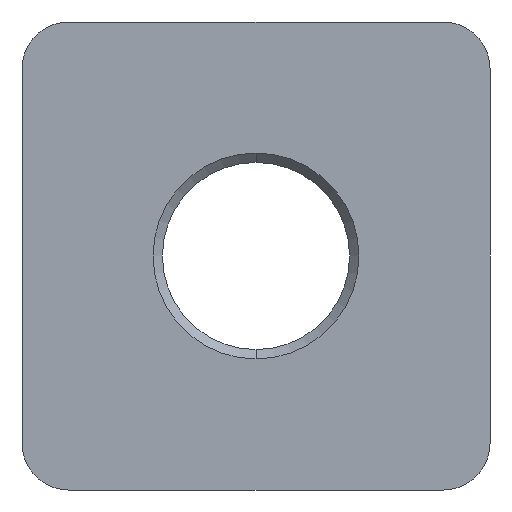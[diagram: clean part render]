
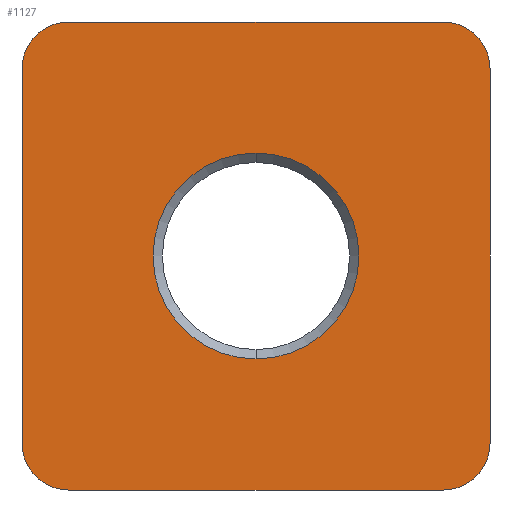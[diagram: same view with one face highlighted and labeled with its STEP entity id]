
A CAD part, front view. The second image highlights one B-rep face of the part: STEP entity #1127.
In plain terms, the highlighted planar face has unit normal (0, -1, 0).
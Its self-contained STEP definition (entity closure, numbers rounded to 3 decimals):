
#27 = VECTOR ( 'NONE', #28, 1000. ) ;
#28 = DIRECTION ( 'NONE',  ( 1., 0., 0. ) ) ;
#124 = EDGE_CURVE ( 'NONE', #125, #1137, #303, .T. ) ;
#125 = VERTEX_POINT ( 'NONE', #298 ) ;
#298 = CARTESIAN_POINT ( 'NONE',  ( 0., 0., -11. ) ) ;
#299 = DIRECTION ( 'NONE',  ( 0., 0., 1. ) ) ;
#300 = DIRECTION ( 'NONE',  ( 0., 1., 0. ) ) ;
#301 = CARTESIAN_POINT ( 'NONE',  ( 0., 0., 0. ) ) ;
#302 = AXIS2_PLACEMENT_3D ( 'NONE', #301, #300, #299 ) ;
#303 = CIRCLE ( 'NONE', #302, 11. ) ;
#397 = CARTESIAN_POINT ( 'NONE',  ( -20., 0., 25. ) ) ;
#497 = DIRECTION ( 'NONE',  ( 0., 0., 1. ) ) ;
#498 = DIRECTION ( 'NONE',  ( 0., 1., 0. ) ) ;
#499 = CARTESIAN_POINT ( 'NONE',  ( 0., 0., 0. ) ) ;
#500 = AXIS2_PLACEMENT_3D ( 'NONE', #499, #498, #497 ) ;
#501 = CIRCLE ( 'NONE', #500, 11. ) ;
#517 = CARTESIAN_POINT ( 'NONE',  ( -20., 0., 25. ) ) ;
#524 = DIRECTION ( 'NONE',  ( 0., 0., -1. ) ) ;
#525 = DIRECTION ( 'NONE',  ( 0., 1., 0. ) ) ;
#526 = CARTESIAN_POINT ( 'NONE',  ( -20., 0., 20. ) ) ;
#527 = AXIS2_PLACEMENT_3D ( 'NONE', #526, #525, #524 ) ;
#528 = CIRCLE ( 'NONE', #527, 5. ) ;
#539 = DIRECTION ( 'NONE',  ( 0., 0., -1. ) ) ;
#540 = VECTOR ( 'NONE', #539, 1000. ) ;
#541 = CARTESIAN_POINT ( 'NONE',  ( 25., 0., 20. ) ) ;
#545 = LINE ( 'NONE', #541, #540 ) ;
#588 = DIRECTION ( 'NONE',  ( 0., 0., 1. ) ) ;
#589 = VECTOR ( 'NONE', #588, 1000. ) ;
#590 = CARTESIAN_POINT ( 'NONE',  ( -25., 0., 20. ) ) ;
#591 = LINE ( 'NONE', #590, #589 ) ;
#596 = CARTESIAN_POINT ( 'NONE',  ( -25., 0., 20. ) ) ;
#608 = DIRECTION ( 'NONE',  ( 0., 0., 1. ) ) ;
#609 = DIRECTION ( 'NONE',  ( 0., 1., 0. ) ) ;
#610 = CARTESIAN_POINT ( 'NONE',  ( -20., 0., -20. ) ) ;
#611 = AXIS2_PLACEMENT_3D ( 'NONE', #610, #609, #608 ) ;
#612 = CIRCLE ( 'NONE', #611, 5. ) ;
#621 = CARTESIAN_POINT ( 'NONE',  ( -20., 0., -25. ) ) ;
#632 = CARTESIAN_POINT ( 'NONE',  ( -25., 0., -20. ) ) ;
#643 = LINE ( 'NONE', #397, #27 ) ;
#649 = CARTESIAN_POINT ( 'NONE',  ( 20., 0., 25. ) ) ;
#660 = DIRECTION ( 'NONE',  ( 0., 0., -1. ) ) ;
#661 = DIRECTION ( 'NONE',  ( 0., 1., 0. ) ) ;
#662 = CARTESIAN_POINT ( 'NONE',  ( 20., 0., -20. ) ) ;
#663 = AXIS2_PLACEMENT_3D ( 'NONE', #662, #661, #660 ) ;
#664 = CIRCLE ( 'NONE', #663, 5. ) ;
#670 = CARTESIAN_POINT ( 'NONE',  ( 20., 0., -25. ) ) ;
#693 = CARTESIAN_POINT ( 'NONE',  ( 25., 0., 20. ) ) ;
#737 = FACE_OUTER_BOUND ( 'NONE', #980, .T. ) ;
#738 = FACE_BOUND ( 'NONE', #976, .T. ) ;
#739 = AXIS2_PLACEMENT_3D ( 'NONE', #800, #799, #798 ) ;
#740 = PLANE ( 'NONE',  #739 ) ;
#741 = DIRECTION ( 'NONE',  ( -1., 0., 0. ) ) ;
#742 = VECTOR ( 'NONE', #741, 1000. ) ;
#743 = CARTESIAN_POINT ( 'NONE',  ( -20., 0., -25. ) ) ;
#744 = LINE ( 'NONE', #743, #742 ) ;
#749 = CARTESIAN_POINT ( 'NONE',  ( 25., 0., -20. ) ) ;
#761 = DIRECTION ( 'NONE',  ( 0., 0., 1. ) ) ;
#762 = DIRECTION ( 'NONE',  ( 0., 1., 0. ) ) ;
#763 = CARTESIAN_POINT ( 'NONE',  ( 20., 0., 20. ) ) ;
#764 = AXIS2_PLACEMENT_3D ( 'NONE', #763, #762, #761 ) ;
#765 = CIRCLE ( 'NONE', #764, 5. ) ;
#782 = CARTESIAN_POINT ( 'NONE',  ( 0., 0., 11. ) ) ;
#798 = DIRECTION ( 'NONE',  ( 0., 0., 1. ) ) ;
#799 = DIRECTION ( 'NONE',  ( 0., 1., 0. ) ) ;
#800 = CARTESIAN_POINT ( 'NONE',  ( -20., 0., -20. ) ) ;
#966 = VERTEX_POINT ( 'NONE', #517 ) ;
#976 = EDGE_LOOP ( 'NONE', ( #977, #978 ) ) ;
#977 = ORIENTED_EDGE ( 'NONE', *, *, #124, .T. ) ;
#978 = ORIENTED_EDGE ( 'NONE', *, *, #979, .T. ) ;
#979 = EDGE_CURVE ( 'NONE', #1137, #125, #501, .T. ) ;
#980 = EDGE_LOOP ( 'NONE', ( #981, #982, #983, #984, #985, #1009, #1010, #1011 ) ) ;
#981 = ORIENTED_EDGE ( 'NONE', *, *, #1027, .F. ) ;
#982 = ORIENTED_EDGE ( 'NONE', *, *, #1126, .F. ) ;
#983 = ORIENTED_EDGE ( 'NONE', *, *, #1069, .F. ) ;
#984 = ORIENTED_EDGE ( 'NONE', *, *, #999, .F. ) ;
#985 = ORIENTED_EDGE ( 'NONE', *, *, #1116, .F. ) ;
#999 = EDGE_CURVE ( 'NONE', #1086, #1122, #545, .T. ) ;
#1005 = EDGE_CURVE ( 'NONE', #1032, #966, #528, .T. ) ;
#1009 = ORIENTED_EDGE ( 'NONE', *, *, #1080, .F. ) ;
#1010 = ORIENTED_EDGE ( 'NONE', *, *, #1005, .F. ) ;
#1011 = ORIENTED_EDGE ( 'NONE', *, *, #1037, .F. ) ;
#1027 = EDGE_CURVE ( 'NONE', #1052, #1046, #612, .T. ) ;
#1032 = VERTEX_POINT ( 'NONE', #596 ) ;
#1037 = EDGE_CURVE ( 'NONE', #1046, #1032, #591, .T. ) ;
#1046 = VERTEX_POINT ( 'NONE', #632 ) ;
#1052 = VERTEX_POINT ( 'NONE', #621 ) ;
#1064 = VERTEX_POINT ( 'NONE', #670 ) ;
#1069 = EDGE_CURVE ( 'NONE', #1122, #1064, #664, .T. ) ;
#1075 = VERTEX_POINT ( 'NONE', #649 ) ;
#1080 = EDGE_CURVE ( 'NONE', #966, #1075, #643, .T. ) ;
#1086 = VERTEX_POINT ( 'NONE', #693 ) ;
#1116 = EDGE_CURVE ( 'NONE', #1075, #1086, #765, .T. ) ;
#1122 = VERTEX_POINT ( 'NONE', #749 ) ;
#1126 = EDGE_CURVE ( 'NONE', #1064, #1052, #744, .T. ) ;
#1127 = ADVANCED_FACE ( 'NONE', ( #738, #737 ), #740, .F. ) ;
#1137 = VERTEX_POINT ( 'NONE', #782 ) ;
